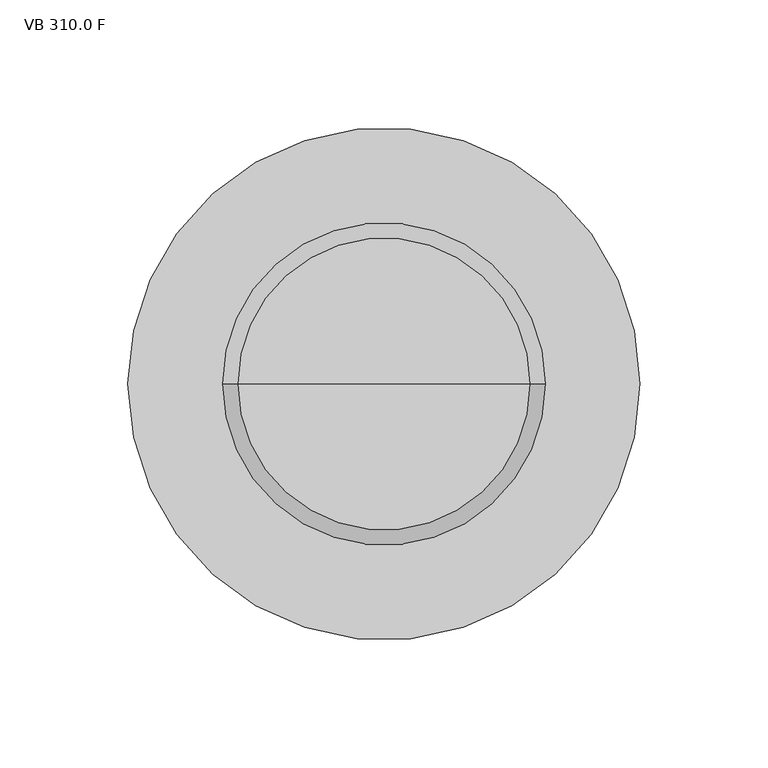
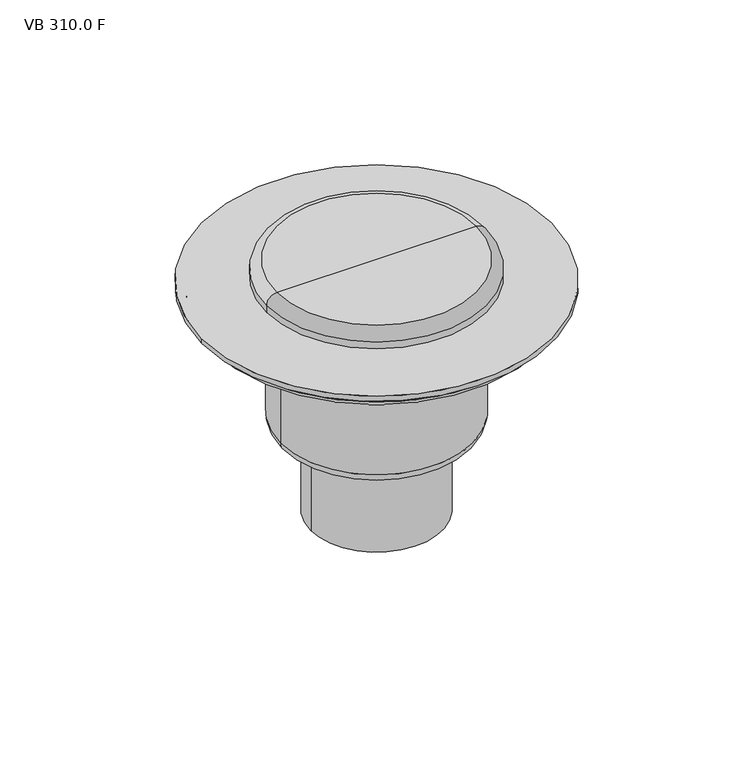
"""IFC4 building model written with IfcOpenShell, lengths in millimetres: flow terminal geometry, BIMLIB_Воронка_Балконная_Fachmann_310СВертикальнымВыпуском : VB 310.0 F."""

from ifc_helpers import new_model, si_unit, point, frame, origin, origin_with_axes, origin_2d, place, context, project, spatial, circle_curve, ellipse_curve, trimmed, segment, composite_curve, outline, extrude, source, transform, mapped, element, save
from ifc_brep_helpers import plane_surface, cylinder_surface, revolved_surface, advanced_brep


def vb_310_0_f_e34d9685(model_context):
    return source(origin(), model_context, "Body", "SolidModel", [
        advanced_brep(
        [(0.0, 0.0, 16.0), (57.0, 0.0, 16.0), (-57.0, 0.0, 16.0), (-55.0, 0.0, 3.0), (55.0, 0.0, 3.0), (0.0, 0.0, 3.0), (-55.0, 0.0, 6.0), (55.0, 0.0, 6.0), (-63.0, 0.0, 6.0), (63.0, 0.0, 6.0), (-63.0, 0.0, 10.0), (63.0, 0.0, 10.0)],
        [
            (0, 1),
            (1, 2, circle_curve(frame((0.0, 0.0, 16.0), z_axis=(0.0, 0.0, 1.0), x_axis=(1.0, 0.0, 0.0)), 57.0)),
            (2, 0),
            (2, 1, circle_curve(frame((0.0, 0.0, 16.0), z_axis=(0.0, 0.0, 1.0), x_axis=(1.0, 0.0, 0.0)), 57.0)),
            (3, 4, circle_curve(frame((0.0, 0.0, 3.0), z_axis=(0.0, 0.0, -1.0), x_axis=(1.0, 0.0, 0.0)), 55.0)),
            (4, 5),
            (5, 3),
            (4, 3, circle_curve(frame((0.0, 0.0, 3.0), z_axis=(0.0, 0.0, -1.0), x_axis=(1.0, 0.0, 0.0)), 55.0)),
            (6, 7, circle_curve(frame((0.0, 0.0, 6.0), z_axis=(0.0, 0.0, -1.0), x_axis=(1.0, 0.0, 0.0)), 55.0)),
            (7, 4),
            (3, 6),
            (7, 6, circle_curve(frame((0.0, 0.0, 6.0), z_axis=(0.0, 0.0, -1.0), x_axis=(1.0, 0.0, 0.0)), 55.0)),
            (8, 9, circle_curve(frame((0.0, 0.0, 6.0), z_axis=(0.0, 0.0, -1.0), x_axis=(1.0, 0.0, 0.0)), 63.0)),
            (9, 7),
            (6, 8),
            (9, 8, circle_curve(frame((0.0, 0.0, 6.0), z_axis=(0.0, 0.0, -1.0), x_axis=(1.0, 0.0, 0.0)), 63.0)),
            (10, 11, circle_curve(frame((0.0, 0.0, 10.0), z_axis=(0.0, 0.0, -1.0), x_axis=(1.0, 0.0, 0.0)), 63.0)),
            (11, 9),
            (8, 10),
            (11, 10, circle_curve(frame((0.0, 0.0, 10.0), z_axis=(0.0, 0.0, -1.0), x_axis=(1.0, 0.0, 0.0)), 63.0)),
            (1, 11, circle_curve(frame((57.0, 0.0, 10.0), z_axis=(0.0, 1.0, 0.0), x_axis=(1.0, 0.0, 0.0)), 6.0)),
            (10, 2, circle_curve(frame((-57.0, 0.0, 10.0), z_axis=(0.0, 1.0, 0.0), x_axis=(-1.0, 0.0, 0.0)), 6.0)),
        ],
        [
            plane_surface(frame((0.0, 0.0, 16.0), z_axis=(0.0, 0.0, 1.0), x_axis=(1.0, 0.0, 0.0))),
            plane_surface(frame((0.0, 0.0, 3.0), z_axis=(0.0, 0.0, -1.0), x_axis=(1.0, 0.0, 0.0))),
            cylinder_surface(frame((0.0, 0.0, 2214.3150031), z_axis=(0.0, 0.0, 1.0), x_axis=(1.0, 0.0, 0.0)), 55.0),
            plane_surface(frame((0.0, 0.0, 6.0), z_axis=(0.0, 0.0, -1.0), x_axis=(1.0, 0.0, 0.0))),
            cylinder_surface(frame((0.0, 0.0, 2214.3150031), z_axis=(0.0, 0.0, 1.0), x_axis=(1.0, 0.0, 0.0)), 63.0),
            revolved_surface(trimmed(ellipse_curve(frame((57.0, 0.0, 10.0), z_axis=(0.0, -1.0, 0.0), x_axis=(1.0, 0.0, 0.0)), 6.0, 6.0), [point((63.0, 0.0, 10.0))], [point((57.0, 0.0, 16.0))], True, "CARTESIAN"), (0.0, 0.0, 2214.3150031), (0.0, 0.0, 1.0)),
        ],
        [
            (0, [[1, 2, 3]]),
            (0, [[-3, 4, -1]]),
            (1, [[5, 6, 7]]),
            (1, [[8, -7, -6]]),
            (2, [[9, 10, -5, 11]]),
            (2, [[12, -11, -8, -10]]),
            (3, [[13, 14, -9, 15]]),
            (3, [[16, -15, -12, -14]]),
            (4, [[17, 18, -13, 19]]),
            (4, [[20, -19, -16, -18]]),
            (5, [[-2, 21, -17, 22]]),
            (5, [[-4, -22, -20, -21]]),
        ],
    ),
        extrude(outline(composite_curve([segment(trimmed(circle_curve(origin_2d(), 100.0), [point((-100.0, 0.0))], [point((100.0, 0.0))], False, "CARTESIAN"), True, "CONTINUOUS"), segment(trimmed(circle_curve(origin_2d(), 100.0), [point((100.0, 0.0))], [point((-100.0, 0.0))], False, "CARTESIAN"), True, "CONTINUOUS")], self_intersect=False)), origin_with_axes(), (0.0, 0.0, 1.0), 3.0),
        advanced_brep(
        [(-55.0, 0.0, -76.0), (55.0, 0.0, -76.0), (49.0, 0.0, -82.0), (-49.0, 0.0, -82.0), (-55.0, 0.0, -24.0), (55.0, 0.0, -24.0), (-58.0, 0.0, -24.0), (58.0, 0.0, -24.0), (-95.0, 0.0, 0.0), (95.0, 0.0, 0.0), (95.0, 0.0, -4.0), (-95.0, 0.0, -4.0), (0.0, 0.0, 0.0), (0.0, 0.0, -82.0), (-58.0, 0.0, -7.0), (58.0, 0.0, -7.0), (-92.0, 0.0, -7.0), (92.0, 0.0, -7.0)],
        [
            (0, 1, circle_curve(frame((0.0, 0.0, -76.0), z_axis=(0.0, 0.0, -1.0), x_axis=(1.0, 0.0, 0.0)), 55.0)),
            (1, 2, circle_curve(frame((49.0, 0.0, -76.0), z_axis=(0.0, 1.0, 0.0), x_axis=(1.0, 0.0, 0.0)), 6.0)),
            (2, 3, circle_curve(frame((0.0, 0.0, -82.0), z_axis=(0.0, 0.0, 1.0), x_axis=(1.0, 0.0, 0.0)), 49.0)),
            (3, 0, circle_curve(frame((-49.0, 0.0, -76.0), z_axis=(0.0, 1.0, 0.0), x_axis=(-1.0, 0.0, 0.0)), 6.0)),
            (1, 0, circle_curve(frame((0.0, 0.0, -76.0), z_axis=(0.0, 0.0, -1.0), x_axis=(1.0, 0.0, 0.0)), 55.0)),
            (3, 2, circle_curve(frame((0.0, 0.0, -82.0), z_axis=(0.0, 0.0, 1.0), x_axis=(1.0, 0.0, 0.0)), 49.0)),
            (4, 5, circle_curve(frame((0.0, 0.0, -24.0), z_axis=(0.0, 0.0, -1.0), x_axis=(1.0, 0.0, 0.0)), 55.0)),
            (5, 1),
            (0, 4),
            (5, 4, circle_curve(frame((0.0, 0.0, -24.0), z_axis=(0.0, 0.0, -1.0), x_axis=(1.0, 0.0, 0.0)), 55.0)),
            (6, 7, circle_curve(frame((0.0, 0.0, -24.0), z_axis=(0.0, 0.0, -1.0), x_axis=(1.0, 0.0, 0.0)), 58.0)),
            (7, 5),
            (4, 6),
            (7, 6, circle_curve(frame((0.0, 0.0, -24.0), z_axis=(0.0, 0.0, -1.0), x_axis=(1.0, 0.0, 0.0)), 58.0)),
            (8, 9, circle_curve(frame((0.0, 0.0, 0.0), z_axis=(0.0, 0.0, -1.0), x_axis=(1.0, 0.0, 0.0)), 95.0)),
            (9, 10),
            (10, 11, circle_curve(frame((0.0, 0.0, -4.0), z_axis=(0.0, 0.0, 1.0), x_axis=(1.0, 0.0, 0.0)), 95.0)),
            (11, 8),
            (9, 8, circle_curve(frame((0.0, 0.0, 0.0), z_axis=(0.0, 0.0, -1.0), x_axis=(1.0, 0.0, 0.0)), 95.0)),
            (11, 10, circle_curve(frame((0.0, 0.0, -4.0), z_axis=(0.0, 0.0, 1.0), x_axis=(1.0, 0.0, 0.0)), 95.0)),
            (12, 9),
            (8, 12),
            (2, 13),
            (13, 3),
            (14, 15, circle_curve(frame((0.0, 0.0, -7.0), z_axis=(0.0, 0.0, -1.0), x_axis=(1.0, 0.0, 0.0)), 58.0)),
            (15, 7),
            (6, 14),
            (15, 14, circle_curve(frame((0.0, 0.0, -7.0), z_axis=(0.0, 0.0, -1.0), x_axis=(1.0, 0.0, 0.0)), 58.0)),
            (16, 17, circle_curve(frame((0.0, 0.0, -7.0), z_axis=(0.0, 0.0, -1.0), x_axis=(1.0, 0.0, 0.0)), 92.0)),
            (17, 15),
            (14, 16),
            (17, 16, circle_curve(frame((0.0, 0.0, -7.0), z_axis=(0.0, 0.0, -1.0), x_axis=(1.0, 0.0, 0.0)), 92.0)),
            (10, 17, circle_curve(frame((92.0, 0.0, -4.0), z_axis=(0.0, 1.0, 0.0), x_axis=(1.0, 0.0, 0.0)), 3.0)),
            (16, 11, circle_curve(frame((-92.0, 0.0, -4.0), z_axis=(0.0, 1.0, 0.0), x_axis=(-1.0, 0.0, 0.0)), 3.0)),
        ],
        [
            revolved_surface(trimmed(ellipse_curve(frame((49.0, 0.0, -76.0), z_axis=(0.0, -1.0, 0.0), x_axis=(1.0, 0.0, 0.0)), 6.0, 6.0), [point((49.0, 0.0, -82.0))], [point((55.0, 0.0, -76.0))], True, "CARTESIAN"), (0.0, 0.0, 2214.3150031), (0.0, 0.0, 1.0)),
            cylinder_surface(frame((0.0, 0.0, 2214.3150031), z_axis=(0.0, 0.0, 1.0), x_axis=(1.0, 0.0, 0.0)), 55.0),
            plane_surface(frame((0.0, 0.0, -24.0), z_axis=(0.0, 0.0, -1.0), x_axis=(1.0, 0.0, 0.0))),
            cylinder_surface(frame((0.0, 0.0, 2214.3150031), z_axis=(0.0, 0.0, 1.0), x_axis=(1.0, 0.0, 0.0)), 95.0),
            plane_surface(origin_with_axes()),
            plane_surface(frame((0.0, 0.0, -82.0), z_axis=(0.0, 0.0, -1.0), x_axis=(1.0, 0.0, 0.0))),
            cylinder_surface(frame((0.0, 0.0, 2214.3150031), z_axis=(0.0, 0.0, 1.0), x_axis=(1.0, 0.0, 0.0)), 58.0),
            plane_surface(frame((0.0, 0.0, -7.0), z_axis=(0.0, 0.0, -1.0), x_axis=(1.0, 0.0, 0.0))),
            revolved_surface(trimmed(ellipse_curve(frame((92.0, 0.0, -4.0), z_axis=(0.0, -1.0, 0.0), x_axis=(1.0, 0.0, 0.0)), 3.0, 3.0), [point((92.0, 0.0, -7.0))], [point((95.0, 0.0, -4.0))], True, "CARTESIAN"), (0.0, 0.0, 2214.3150031), (0.0, 0.0, 1.0)),
        ],
        [
            (0, [[1, 2, 3, 4]]),
            (0, [[5, -4, 6, -2]]),
            (1, [[7, 8, -1, 9]]),
            (1, [[10, -9, -5, -8]]),
            (2, [[11, 12, -7, 13]]),
            (2, [[14, -13, -10, -12]]),
            (3, [[15, 16, 17, 18]]),
            (3, [[19, -18, 20, -16]]),
            (4, [[21, -15, 22]]),
            (4, [[-22, -19, -21]]),
            (5, [[-3, 23, 24]]),
            (5, [[-6, -24, -23]]),
            (6, [[25, 26, -11, 27]]),
            (6, [[28, -27, -14, -26]]),
            (7, [[29, 30, -25, 31]]),
            (7, [[32, -31, -28, -30]]),
            (8, [[-17, 33, -29, 34]]),
            (8, [[-20, -34, -32, -33]]),
        ],
    ),
        extrude(outline(composite_curve([segment(trimmed(circle_curve(origin_2d(), 25.0), [point((25.0, 0.0))], [point((-25.0, 0.0))], False, "CARTESIAN"), True, "CONTINUOUS"), segment(trimmed(circle_curve(origin_2d(), 25.0), [point((-25.0, 0.0))], [point((25.0, 0.0))], False, "CARTESIAN"), True, "CONTINUOUS")], self_intersect=False), holes=[composite_curve([segment(trimmed(circle_curve(origin_2d(), 22.0), [point((22.0, 0.0))], [point((-22.0, 0.0))], True, "CARTESIAN"), True, "CONTINUOUS"), segment(trimmed(circle_curve(origin_2d(), 22.0), [point((-22.0, 0.0))], [point((22.0, 0.0))], True, "CARTESIAN"), True, "CONTINUOUS")], self_intersect=False)]), frame((0.0, 0.0, -135.0), z_axis=(0.0, 0.0, 1.0), x_axis=(1.0, 0.0, 0.0)), (0.0, 0.0, 1.0), 53.0),
        extrude(outline(composite_curve([segment(trimmed(circle_curve(origin_2d(), 37.5), [point((37.5, 0.0))], [point((-37.5, 0.0))], False, "CARTESIAN"), True, "CONTINUOUS"), segment(trimmed(circle_curve(origin_2d(), 37.5), [point((-37.5, 0.0))], [point((37.5, 0.0))], False, "CARTESIAN"), True, "CONTINUOUS")], self_intersect=False), holes=[composite_curve([segment(trimmed(circle_curve(origin_2d(), 34.5), [point((34.5, 0.0))], [point((-34.5, 0.0))], True, "CARTESIAN"), True, "CONTINUOUS"), segment(trimmed(circle_curve(origin_2d(), 34.5), [point((-34.5, 0.0))], [point((34.5, 0.0))], True, "CARTESIAN"), True, "CONTINUOUS")], self_intersect=False)]), frame((0.0, 0.0, -135.0), z_axis=(0.0, 0.0, 1.0), x_axis=(1.0, 0.0, 0.0)), (0.0, 0.0, 1.0), 53.0),
    ])


if __name__ == "__main__":
    model = new_model("IFC4")
    model_context = context("Model", 3, world=origin())
    ifc_project = project(units=[si_unit("LENGTHUNIT", "METRE", prefix="MILLI")], contexts=[model_context])
    site = spatial("IfcSite", under=ifc_project)
    building = spatial("IfcBuilding", under=site)
    placement = place(None, origin())
    vb_310_0_f_shape = vb_310_0_f_e34d9685(model_context)
    element("IfcFlowTerminal", 1, ObjectType="BIMLIB_Воронка_Балконная_Fachmann_310СВертикальнымВыпуском : VB 310.0 F", at=placement, inside=building, context=model_context, shape_type="MappedRepresentation", body=[
        mapped(vb_310_0_f_shape, transform((0.0, 0.0, 0.0), x_axis=(1.0, 0.0, 0.0), y_axis=(0.0, 1.0, 0.0), z_axis=(0.0, 0.0, 1.0))),
    ])
    save(model, "model.ifc")
